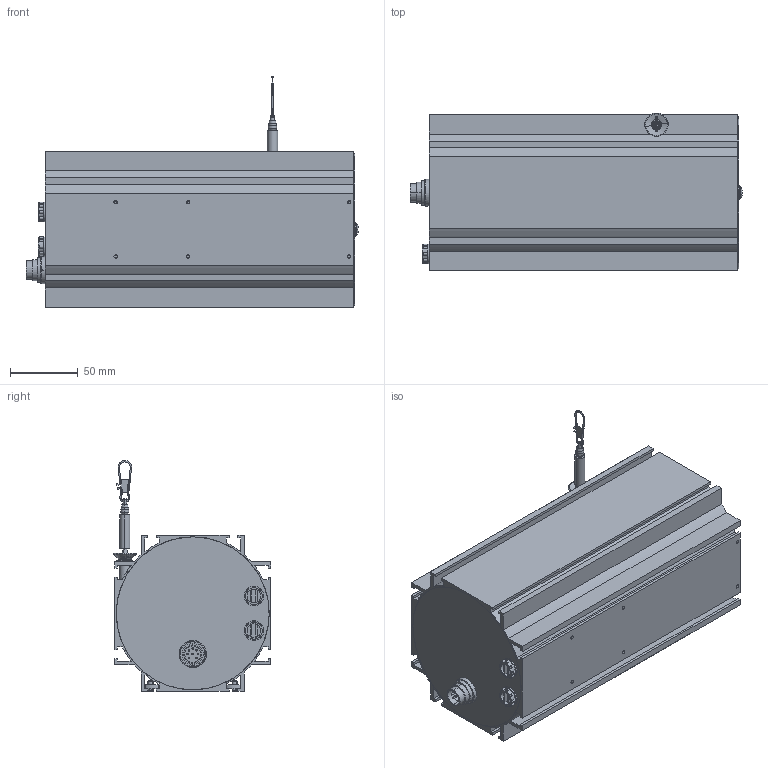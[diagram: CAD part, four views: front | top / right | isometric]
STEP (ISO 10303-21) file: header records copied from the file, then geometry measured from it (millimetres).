
FILE_DESCRIPTION((''),'2;1');
FILE_NAME('','2007-03-21T',(''),(''),'PRO/ENGINEER BY PARAMETRIC TECHNOLOGY CORPORATION, 2003250','PRO/ENGINEER BY PARAMETRIC TECHNOLOGY CORPORATION, 2003250','');
FILE_SCHEMA(('CONFIG_CONTROL_DESIGN'));
Length unit declared in the file: millimetre
Bounding box: 244.47 x 116.11 x 170 mm (x, y, z)
Volume: 441257.4 mm3; surface area: 281846.6 mm2
Topology: 1 solids, 5 shells, 679 faces, 1784 edges, 1183 vertices
Faces by surface type: plane 316, cylinder 257, cone 60, torus 26, bspline 16, sphere 4
Entity records: 22273 total; most frequent: CARTESIAN_POINT 4989, DIRECTION 3753, ORIENTED_EDGE 3524, EDGE_CURVE 1762, AXIS2_PLACEMENT_3D 1435, VERTEX_POINT 1183, VECTOR 883, LINE 883
